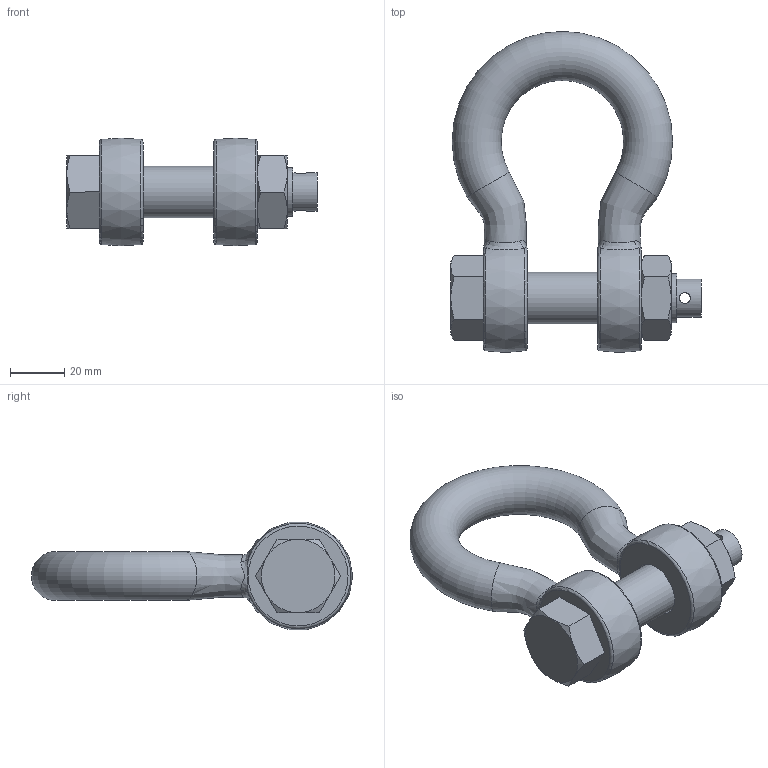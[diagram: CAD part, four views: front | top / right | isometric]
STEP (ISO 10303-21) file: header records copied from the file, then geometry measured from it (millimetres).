
FILE_DESCRIPTION(/* description */ (''),/* implementation_level */ '2;1');
FILE_NAME(/* name */ 'C:\Users\D\Documents\Inventor\HP\吊具\シャックル\BB_2\bb_16.stp',/* time_stamp */ '2024-11-20T10:47:48+09:00',/* author */ ('D'),/* organization */ (''),/* preprocessor_version */ 'ST-DEVELOPER v18',/* originating_system */ 'Autodesk Inventor 2020',/* authorisation */ '');
FILE_SCHEMA (('AUTOMOTIVE_DESIGN { 1 0 10303 214 3 1 1 }'));
Length unit declared in the file: millimetre
Products named in the file (3): bb_16; ba_6; sb_pin_10
Assembly tree (2 placements, depth 2):
  bb_16
    ba_6
    sb_pin_10
Bounding box: 92 x 118 x 39.44 mm (x, y, z)
Volume: 105313.8 mm3; surface area: 28002.8 mm2
Topology: 4 solids, 4 shells, 69 faces, 167 edges, 109 vertices
Faces by surface type: plane 26, cone 19, bspline 12, cylinder 7, torus 5
Full cylindrical faces by diameter (mm): 4 x1, 14 x1, 18 x2, 19 x1, 20 x2
Entity records: 3201 total; most frequent: CARTESIAN_POINT 1612, ORIENTED_EDGE 334, DIRECTION 293, EDGE_CURVE 167, AXIS2_PLACEMENT_3D 133, VERTEX_POINT 109, EDGE_LOOP 78, CIRCLE 71
